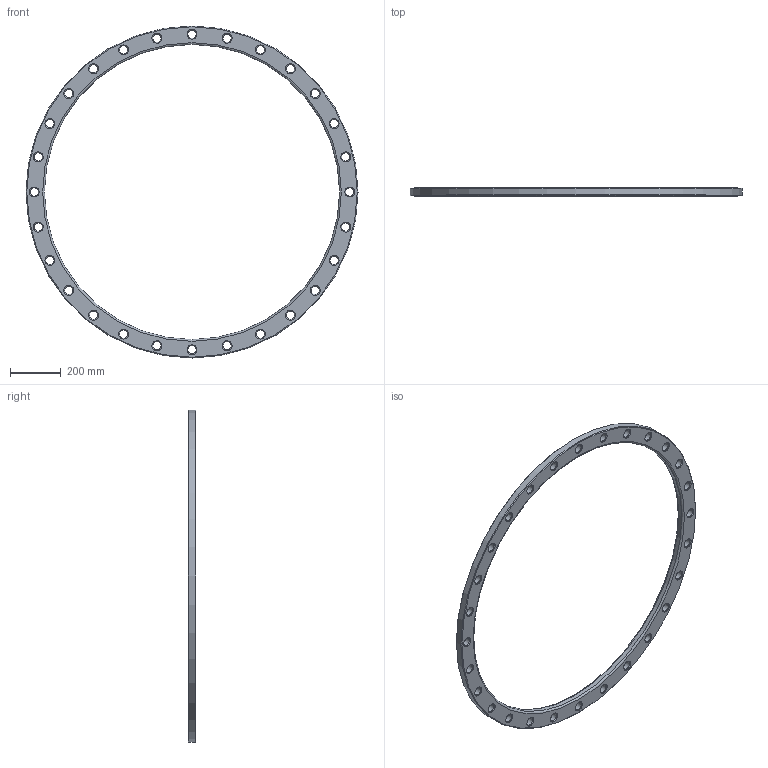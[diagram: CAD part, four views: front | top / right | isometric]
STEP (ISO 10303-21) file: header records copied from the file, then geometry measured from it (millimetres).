
FILE_DESCRIPTION(/* description */ ('Unknown'),/* implementation_level */ '2;1');
FILE_NAME(/* name */ 'FZ1100A',/* time_stamp */ '2021-03-15T09:34:13+01:00',/* author */ ('Unknown'),/* organization */ ('Unknown'),/* preprocessor_version */ 'ST-DEVELOPER v16.7',/* originating_system */ 'Solid Edge',/* authorisation */ 'Unknown');
FILE_SCHEMA (('AUTOMOTIVE_DESIGN {1 0 10303 214 3 1 1}'));
Length unit declared in the file: millimetre
Products named in the file (1): FZ1100A
Bounding box: 1305 x 31 x 1305 mm (x, y, z)
Volume: 7818550.9 mm3; surface area: 797763.8 mm2
Topology: 1 solids, 1 shells, 92 faces, 294 edges, 204 vertices
Faces by surface type: cone 58, cylinder 30, plane 2, torus 2
Full cylindrical faces by diameter (mm): 33 x28, 1160 x1, 1305 x1
Entity records: 2270 total; most frequent: DIRECTION 426, CARTESIAN_POINT 333, ORIENTED_EDGE 240, EDGE_LOOP 240, FACE_BOUND 240, AXIS2_PLACEMENT_3D 213, EDGE_CURVE 120, VERTEX_POINT 120
